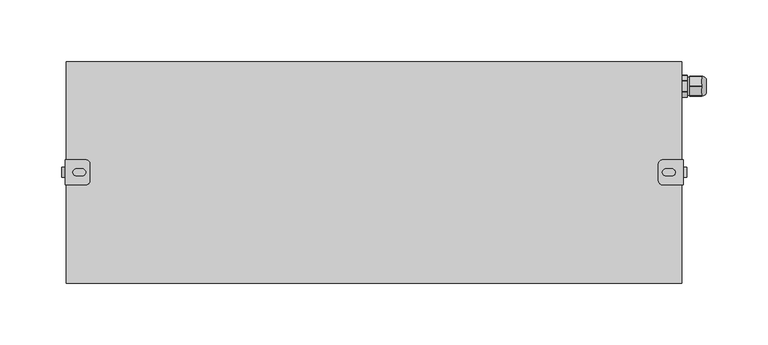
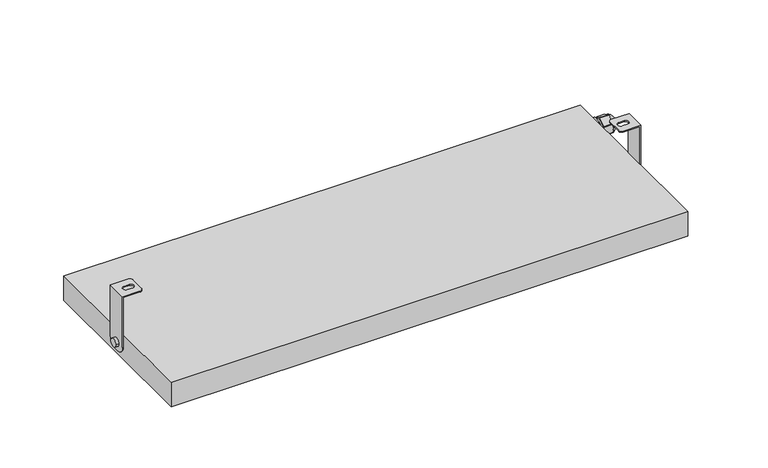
"""IFC4 building model written with IfcOpenShell, lengths in millimetres: light fixture geometry, GENILED_Светильник светодиодный_Titan Advanced : Titan Advanced 500x180x25 40Вт IP66 Опал."""

from ifc_helpers import new_model, si_unit, point, frame, frame_2d, origin, origin_with_axes, place, context, project, spatial, polyline, circle_curve, ellipse_curve, trimmed, segment, composite_curve, outline, extrude, source, transform, mapped, element, save
from ifc_brep_helpers import plane_surface, cylinder_surface, revolved_surface, advanced_brep


def light_fixture_fd2b8f3f(model_context):
    return source(origin(), model_context, "Body", "SolidModel", [
        advanced_brep(
        [(-234.0, 10.0, 64.5), (-251.0, 10.0, 64.5), (-251.0, -10.0, 64.5), (-234.0, -10.0, 64.5), (-231.0, -7.0, 64.5), (-231.0, 7.0, 64.5), (-237.0, 2.75, 64.5), (-237.0, -2.75, 64.5), (-242.0, -2.75, 64.5), (-242.0, 2.75, 64.5), (-234.0, -10.0, 63.5), (-250.0, -10.0, 63.5), (-250.0, 10.0, 63.5), (-234.0, 10.0, 63.5), (-231.0, 7.0, 63.5), (-231.0, -7.0, 63.5), (-237.0, 2.75, 63.5), (-242.0, 2.75, 63.5), (-242.0, -2.75, 63.5), (-237.0, -2.75, 63.5), (-251.0, -10.0, 12.5), (-250.0, -10.0, 12.5), (-251.0, 10.0, 12.5), (-251.0, 2.0, 4.5), (-251.0, -2.0, 4.5), (-251.0, 4.0, 12.5), (-251.0, -4.0, 12.5), (-250.0, 10.0, 12.5), (-250.0, -2.0, 4.5), (-250.0, 2.0, 4.5), (-254.0, -4.0, 12.5), (-254.0, 4.0, 12.5)],
        [
            (0, 1),
            (1, 2),
            (2, 3),
            (3, 4, circle_curve(frame((-234.0, -7.0, 64.5), z_axis=(0.0, 0.0, 1.0), x_axis=(-1.0, 0.0, 0.0)), 3.0)),
            (4, 5),
            (5, 0, circle_curve(frame((-234.0, 7.0, 64.5), z_axis=(0.0, 0.0, 1.0), x_axis=(-1.0, 0.0, 0.0)), 3.0)),
            (6, 7, circle_curve(frame((-237.0, 0.0, 64.5), z_axis=(0.0, 0.0, -1.0), x_axis=(-1.0, 0.0, 0.0)), 2.75)),
            (7, 8),
            (8, 9, circle_curve(frame((-242.0, 0.0, 64.5), z_axis=(0.0, 0.0, -1.0), x_axis=(-1.0, 0.0, 0.0)), 2.75)),
            (9, 6),
            (10, 11),
            (11, 12),
            (12, 13),
            (13, 14, circle_curve(frame((-234.0, 7.0, 63.5), z_axis=(0.0, 0.0, -1.0), x_axis=(-1.0, 0.0, 0.0)), 3.0)),
            (14, 15),
            (15, 10, circle_curve(frame((-234.0, -7.0, 63.5), z_axis=(0.0, 0.0, -1.0), x_axis=(-1.0, 0.0, 0.0)), 3.0)),
            (16, 17),
            (17, 18, circle_curve(frame((-242.0, 0.0, 63.5), z_axis=(0.0, 0.0, 1.0), x_axis=(-1.0, 0.0, 0.0)), 2.75)),
            (18, 19),
            (19, 16, circle_curve(frame((-237.0, 0.0, 63.5), z_axis=(0.0, 0.0, 1.0), x_axis=(-1.0, 0.0, 0.0)), 2.75)),
            (5, 14),
            (13, 0),
            (4, 15),
            (3, 10),
            (2, 20),
            (20, 21),
            (21, 11),
            (1, 22),
            (22, 23, circle_curve(frame((-251.0, 2.0, 12.5), z_axis=(-1.0, 0.0, 0.0), x_axis=(0.0, 1.0, 0.0)), 8.0)),
            (23, 24),
            (24, 20, circle_curve(frame((-251.0, -2.0, 12.5), z_axis=(-1.0, 0.0, 0.0), x_axis=(0.0, 1.0, 0.0)), 8.0)),
            (25, 26, circle_curve(frame((-251.0, 0.0, 12.5), z_axis=(1.0, 0.0, 0.0), x_axis=(0.0, 1.0, 0.0)), 4.0)),
            (26, 25, circle_curve(frame((-251.0, 0.0, 12.5), z_axis=(1.0, 0.0, 0.0), x_axis=(0.0, 1.0, 0.0)), 4.0)),
            (12, 27),
            (27, 22),
            (9, 17),
            (16, 6),
            (8, 18),
            (7, 19),
            (21, 28, circle_curve(frame((-250.0, -2.0, 12.5), z_axis=(1.0, 0.0, 0.0), x_axis=(0.0, 1.0, 0.0)), 8.0)),
            (28, 29),
            (29, 27, circle_curve(frame((-250.0, 2.0, 12.5), z_axis=(1.0, 0.0, 0.0), x_axis=(0.0, 1.0, 0.0)), 8.0)),
            (24, 28),
            (23, 29),
            (30, 31, circle_curve(frame((-254.0, 0.0, 12.5), z_axis=(-1.0, 0.0, 0.0), x_axis=(0.0, 1.0, 0.0)), 4.0)),
            (31, 30, circle_curve(frame((-254.0, 0.0, 12.5), z_axis=(-1.0, 0.0, 0.0), x_axis=(0.0, 1.0, 0.0)), 4.0)),
            (31, 25),
            (26, 30),
        ],
        [
            plane_surface(frame((-237.0, 7.0, 64.5), z_axis=(0.0, 0.0, 1.0), x_axis=(0.0, 1.0, 0.0))),
            plane_surface(frame((-237.0, 7.0, 63.5), z_axis=(0.0, 0.0, -1.0), x_axis=(0.0, -1.0, 0.0))),
            cylinder_surface(frame((-234.0, 7.0, 63.5), z_axis=(0.0, 0.0, 1.0), x_axis=(-1.0, 0.0, 0.0)), 3.0),
            plane_surface(frame((-231.0, 7.0, 64.5), z_axis=(1.0, 0.0, 0.0), x_axis=(0.0, 0.0, -1.0))),
            cylinder_surface(frame((-234.0, -7.0, 63.5), z_axis=(0.0, 0.0, 1.0), x_axis=(-1.0, 0.0, 0.0)), 3.0),
            plane_surface(frame((-234.0, -10.0, 64.5), z_axis=(0.0, -1.0, 0.0), x_axis=(0.0, 0.0, -1.0))),
            plane_surface(frame((-251.0, -10.0, 64.5), z_axis=(-1.0, 0.0, 0.0), x_axis=(0.0, 0.0, -1.0))),
            plane_surface(frame((-251.0, 10.0, 64.5), z_axis=(0.0, 1.0, 0.0), x_axis=(0.0, 0.0, -1.0))),
            plane_surface(frame((-237.0, 2.75, 64.5), z_axis=(0.0, -1.0, 0.0), x_axis=(0.0, 0.0, -1.0))),
            revolved_surface(polyline([(-244.75, 0.0, 63.5), (-244.75, 0.0, 64.5)]), (-242.0, 0.0, 12.5), (0.0, 0.0, -1.0)),
            plane_surface(frame((-242.0, -2.75, 64.5), z_axis=(0.0, 1.0, 0.0), x_axis=(0.0, 0.0, -1.0))),
            revolved_surface(polyline([(-239.75, 0.0, 63.5), (-239.75, 0.0, 64.5)]), (-237.0, 0.0, 12.5), (0.0, 0.0, -1.0)),
            plane_surface(frame((-250.0, -10.0, 64.5), z_axis=(1.0, 0.0, 0.0), x_axis=(0.0, 1.0, 0.0))),
            cylinder_surface(frame((-250.0, -2.0, 12.5), z_axis=(-1.0, 0.0, 0.0), x_axis=(0.0, 1.0, 0.0)), 8.0),
            plane_surface(frame((-251.0, -2.0, 4.5), z_axis=(0.0, 0.0, -1.0), x_axis=(1.0, 0.0, 0.0))),
            cylinder_surface(frame((-250.0, 2.0, 12.5), z_axis=(-1.0, 0.0, 0.0), x_axis=(0.0, 1.0, 0.0)), 8.0),
            plane_surface(frame((-254.0, 4.0, 12.5), z_axis=(-1.0, 0.0, 0.0), x_axis=(0.0, 0.0, 1.0))),
            cylinder_surface(frame((-251.0, 0.0, 12.5), z_axis=(-1.0, 0.0, 0.0), x_axis=(0.0, 1.0, 0.0)), 4.0),
        ],
        [
            (0, [[1, 2, 3, 4, 5, 6], [7, 8, 9, 10]]),
            (1, [[11, 12, 13, 14, 15, 16], [17, 18, 19, 20]]),
            (2, [[21, -14, 22, -6]]),
            (3, [[23, -15, -21, -5]]),
            (4, [[24, -16, -23, -4]]),
            (5, [[-3, 25, 26, 27, -11, -24]]),
            (6, [[28, 29, 30, 31, -25, -2], [32, 33]]),
            (7, [[-13, 34, 35, -28, -1, -22]]),
            (8, [[36, -17, 37, -10]]),
            (9, [[38, -18, -36, -9]]),
            (10, [[39, -19, -38, -8]]),
            (11, [[-37, -20, -39, -7]]),
            (12, [[-34, -12, -27, 40, 41, 42]]),
            (13, [[43, -40, -26, -31]]),
            (14, [[44, -41, -43, -30]]),
            (15, [[-35, -42, -44, -29]]),
            (16, [[45, 46]]),
            (17, [[47, -33, 48, -46]]),
            (17, [[-48, -32, -47, -45]]),
        ],
    ),
        advanced_brep(
        [(234.0, 10.0, 64.5), (231.0, 7.0, 64.5), (231.0, -7.0, 64.5), (234.0, -10.0, 64.5), (251.0, -10.0, 64.5), (251.0, 10.0, 64.5), (237.0, 2.75, 64.5), (242.0, 2.75, 64.5), (242.0, -2.75, 64.5), (237.0, -2.75, 64.5), (234.0, -10.0, 63.5), (231.0, -7.0, 63.5), (231.0, 7.0, 63.5), (234.0, 10.0, 63.5), (250.0, 10.0, 63.5), (250.0, -10.0, 63.5), (237.0, 2.75, 63.5), (237.0, -2.75, 63.5), (242.0, -2.75, 63.5), (242.0, 2.75, 63.5), (250.0, -10.0, 12.5), (251.0, -10.0, 12.5), (251.0, -2.0, 4.5), (251.0, 2.0, 4.5), (251.0, 10.0, 12.5), (251.0, 4.0, 12.5), (251.0, -4.0, 12.5), (250.0, 10.0, 12.5), (250.0, 2.0, 4.5), (250.0, -2.0, 4.5), (254.0, -4.0, 12.5), (254.0, 4.0, 12.5)],
        [
            (0, 1, circle_curve(frame((234.0, 7.0, 64.5), z_axis=(0.0, 0.0, 1.0), x_axis=(1.0, 0.0, 0.0)), 3.0)),
            (1, 2),
            (2, 3, circle_curve(frame((234.0, -7.0, 64.5), z_axis=(0.0, 0.0, 1.0), x_axis=(1.0, 0.0, 0.0)), 3.0)),
            (3, 4),
            (4, 5),
            (5, 0),
            (6, 7),
            (7, 8, circle_curve(frame((242.0, 0.0, 64.5), z_axis=(0.0, 0.0, -1.0), x_axis=(1.0, 0.0, 0.0)), 2.75)),
            (8, 9),
            (9, 6, circle_curve(frame((237.0, 0.0, 64.5), z_axis=(0.0, 0.0, -1.0), x_axis=(1.0, 0.0, 0.0)), 2.75)),
            (10, 11, circle_curve(frame((234.0, -7.0, 63.5), z_axis=(0.0, 0.0, -1.0), x_axis=(1.0, 0.0, 0.0)), 3.0)),
            (11, 12),
            (12, 13, circle_curve(frame((234.0, 7.0, 63.5), z_axis=(0.0, 0.0, -1.0), x_axis=(1.0, 0.0, 0.0)), 3.0)),
            (13, 14),
            (14, 15),
            (15, 10),
            (16, 17, circle_curve(frame((237.0, 0.0, 63.5), z_axis=(0.0, 0.0, 1.0), x_axis=(1.0, 0.0, 0.0)), 2.75)),
            (17, 18),
            (18, 19, circle_curve(frame((242.0, 0.0, 63.5), z_axis=(0.0, 0.0, 1.0), x_axis=(1.0, 0.0, 0.0)), 2.75)),
            (19, 16),
            (0, 13),
            (12, 1),
            (11, 2),
            (10, 3),
            (15, 20),
            (20, 21),
            (21, 4),
            (21, 22, circle_curve(frame((251.0, -2.0, 12.5), z_axis=(1.0, 0.0, 0.0), x_axis=(0.0, 1.0, 0.0)), 8.0)),
            (22, 23),
            (23, 24, circle_curve(frame((251.0, 2.0, 12.5), z_axis=(1.0, 0.0, 0.0), x_axis=(0.0, 1.0, 0.0)), 8.0)),
            (24, 5),
            (25, 26, circle_curve(frame((251.0, 0.0, 12.5), z_axis=(-1.0, 0.0, 0.0), x_axis=(0.0, 1.0, 0.0)), 4.0)),
            (26, 25, circle_curve(frame((251.0, 0.0, 12.5), z_axis=(-1.0, 0.0, 0.0), x_axis=(0.0, 1.0, 0.0)), 4.0)),
            (24, 27),
            (27, 14),
            (6, 16),
            (19, 7),
            (18, 8),
            (17, 9),
            (27, 28, circle_curve(frame((250.0, 2.0, 12.5), z_axis=(-1.0, 0.0, 0.0), x_axis=(0.0, 1.0, 0.0)), 8.0)),
            (28, 29),
            (29, 20, circle_curve(frame((250.0, -2.0, 12.5), z_axis=(-1.0, 0.0, 0.0), x_axis=(0.0, 1.0, 0.0)), 8.0)),
            (29, 22),
            (28, 23),
            (30, 31, circle_curve(frame((254.0, 0.0, 12.5), z_axis=(1.0, 0.0, 0.0), x_axis=(0.0, 1.0, 0.0)), 4.0)),
            (31, 30, circle_curve(frame((254.0, 0.0, 12.5), z_axis=(1.0, 0.0, 0.0), x_axis=(0.0, 1.0, 0.0)), 4.0)),
            (30, 26),
            (25, 31),
        ],
        [
            plane_surface(frame((237.0, 7.0, 64.5), z_axis=(0.0, 0.0, 1.0), x_axis=(0.0, 1.0, 0.0))),
            plane_surface(frame((237.0, 7.0, 63.5), z_axis=(0.0, 0.0, -1.0), x_axis=(0.0, -1.0, 0.0))),
            cylinder_surface(frame((234.0, 7.0, 63.5), z_axis=(0.0, 0.0, 1.0), x_axis=(1.0, 0.0, 0.0)), 3.0),
            plane_surface(frame((231.0, 7.0, 64.5), z_axis=(-1.0, 0.0, 0.0), x_axis=(0.0, 0.0, -1.0))),
            cylinder_surface(frame((234.0, -7.0, 63.5), z_axis=(0.0, 0.0, 1.0), x_axis=(1.0, 0.0, 0.0)), 3.0),
            plane_surface(frame((234.0, -10.0, 64.5), z_axis=(0.0, -1.0, 0.0), x_axis=(0.0, 0.0, -1.0))),
            plane_surface(frame((251.0, -10.0, 64.5), z_axis=(1.0, 0.0, 0.0), x_axis=(0.0, 0.0, -1.0))),
            plane_surface(frame((251.0, 10.0, 64.5), z_axis=(0.0, 1.0, 0.0), x_axis=(0.0, 0.0, -1.0))),
            plane_surface(frame((237.0, 2.75, 64.5), z_axis=(0.0, -1.0, 0.0), x_axis=(0.0, 0.0, -1.0))),
            revolved_surface(polyline([(244.75, 0.0, 63.5), (244.75, 0.0, 64.5)]), (242.0, 0.0, 12.5), (0.0, 0.0, -1.0)),
            plane_surface(frame((242.0, -2.75, 64.5), z_axis=(0.0, 1.0, 0.0), x_axis=(0.0, 0.0, -1.0))),
            revolved_surface(polyline([(239.75, 0.0, 63.5), (239.75, 0.0, 64.5)]), (237.0, 0.0, 12.5), (0.0, 0.0, -1.0)),
            plane_surface(frame((250.0, -10.0, 64.5), z_axis=(-1.0, 0.0, 0.0), x_axis=(0.0, 1.0, 0.0))),
            cylinder_surface(frame((250.0, -2.0, 12.5), z_axis=(1.0, 0.0, 0.0), x_axis=(0.0, 1.0, 0.0)), 8.0),
            plane_surface(frame((251.0, -2.0, 4.5), z_axis=(0.0, 0.0, -1.0), x_axis=(-1.0, 0.0, 0.0))),
            cylinder_surface(frame((250.0, 2.0, 12.5), z_axis=(1.0, 0.0, 0.0), x_axis=(0.0, 1.0, 0.0)), 8.0),
            plane_surface(frame((254.0, 4.0, 12.5), z_axis=(1.0, 0.0, 0.0), x_axis=(0.0, 0.0, 1.0))),
            cylinder_surface(frame((251.0, 0.0, 12.5), z_axis=(1.0, 0.0, 0.0), x_axis=(0.0, 1.0, 0.0)), 4.0),
        ],
        [
            (0, [[1, 2, 3, 4, 5, 6], [7, 8, 9, 10]]),
            (1, [[11, 12, 13, 14, 15, 16], [17, 18, 19, 20]]),
            (2, [[-1, 21, -13, 22]]),
            (3, [[-2, -22, -12, 23]]),
            (4, [[-3, -23, -11, 24]]),
            (5, [[-24, -16, 25, 26, 27, -4]]),
            (6, [[-5, -27, 28, 29, 30, 31], [32, 33]]),
            (7, [[-21, -6, -31, 34, 35, -14]]),
            (8, [[-7, 36, -20, 37]]),
            (9, [[-8, -37, -19, 38]]),
            (10, [[-9, -38, -18, 39]]),
            (11, [[-10, -39, -17, -36]]),
            (12, [[40, 41, 42, -25, -15, -35]]),
            (13, [[-28, -26, -42, 43]]),
            (14, [[-29, -43, -41, 44]]),
            (15, [[-30, -44, -40, -34]]),
            (16, [[45, 46]]),
            (17, [[-45, 47, -32, 48]]),
            (17, [[-46, -48, -33, -47]]),
        ],
    ),
        advanced_brep(
        [(270.0120269, 64.15, 12.5), (270.0120269, 75.85, 12.5), (270.0120269, 73.5, 12.5), (270.0120269, 66.5, 12.5), (266.0120269, 62.0, 12.5), (266.0120269, 66.0, 5.5717968), (266.0120269, 74.0, 5.5717968), (266.0120269, 78.0, 12.5), (266.0120269, 74.0, 19.4282032), (266.0120269, 66.0, 19.4282032), (266.0120269, 73.5, 12.5), (266.0120269, 66.5, 12.5), (266.0120269, 62.0, 8.3768944), (266.0120269, 62.4292858, 7.6333496), (266.0120269, 69.5707142, 3.510244), (266.0120269, 70.4292858, 3.510244), (266.0120269, 77.5707142, 7.6333496), (266.0120269, 78.0, 8.3768944), (266.0120269, 78.0, 16.6231056), (266.0120269, 77.5707142, 17.3666504), (266.0120269, 70.4292858, 21.489756), (266.0120269, 69.5707142, 21.489756), (266.0120269, 62.4292858, 17.3666504), (266.0120269, 62.0, 16.6231056), (256.6, 69.5707142, 3.510244), (256.6, 62.4292858, 7.6333496), (256.6, 62.0, 8.3768944), (256.6, 62.0, 16.6231056), (256.6, 62.4292858, 17.3666504), (256.6, 69.5707142, 21.489756), (256.6, 70.4292858, 21.489756), (256.6, 77.5707142, 17.3666504), (256.6, 78.0, 16.6231056), (256.6, 78.0, 8.3768944), (256.6, 77.5707142, 7.6333496), (256.6, 70.4292858, 3.510244), (256.6, 77.25, 12.5), (256.6, 62.75, 12.5), (254.6, 77.25, 12.5), (254.6, 62.75, 12.5), (254.6, 78.989756, 12.9292858), (254.6, 74.8666504, 20.0707142), (254.6, 74.1231056, 20.5), (254.6, 65.8768944, 20.5), (254.6, 65.1333496, 20.0707142), (254.6, 61.010244, 12.9292858), (254.6, 61.0, 12.5), (254.6, 61.010244, 12.0707142), (254.6, 65.1333496, 4.9292858), (254.6, 65.8768944, 4.5), (254.6, 74.1231056, 4.5), (254.6, 74.8666504, 4.9292858), (254.6, 78.989756, 12.0707142), (254.6, 79.0, 12.5), (250.0, 78.989756, 12.0707142), (250.0, 74.8666504, 4.9292858), (250.0, 74.1231056, 4.5), (250.0, 65.8768944, 4.5), (250.0, 65.1333496, 4.9292858), (250.0, 61.010244, 12.0707142), (250.0, 61.0, 12.5), (250.0, 61.010244, 12.9292858), (250.0, 65.1333496, 20.0707142), (250.0, 65.8768944, 20.5), (250.0, 74.1231056, 20.5), (250.0, 74.8666504, 20.0707142), (250.0, 78.989756, 12.9292858), (250.0, 79.0, 12.5)],
        [
            (0, 1, circle_curve(frame((270.0120269, 70.0, 12.5), z_axis=(1.0, 0.0, 0.0), x_axis=(0.0, 1.0, 0.0)), 5.85)),
            (1, 2),
            (2, 3, circle_curve(frame((270.0120269, 70.0, 12.5), z_axis=(-1.0, 0.0, 0.0), x_axis=(0.0, 1.0, 0.0)), 3.5)),
            (3, 0),
            (1, 0, circle_curve(frame((270.0120269, 70.0, 12.5), z_axis=(1.0, 0.0, 0.0), x_axis=(0.0, 1.0, 0.0)), 5.85)),
            (3, 2, circle_curve(frame((270.0120269, 70.0, 12.5), z_axis=(-1.0, 0.0, 0.0), x_axis=(0.0, 1.0, 0.0)), 3.5)),
            (0, 4, circle_curve(frame((265.6269324, 67.5123851, 12.5), z_axis=(0.0, 0.0, -1.0), x_axis=(0.0, 1.0, 0.0)), 5.5258201)),
            (4, 5, circle_curve(frame((266.0120269, 70.0, 12.5), z_axis=(1.0, 0.0, 0.0), x_axis=(0.0, 1.0, 0.0)), 8.0)),
            (5, 6, circle_curve(frame((266.0120269, 70.0, 12.5), z_axis=(1.0, 0.0, 0.0), x_axis=(0.0, 1.0, 0.0)), 8.0)),
            (6, 7, circle_curve(frame((266.0120269, 70.0, 12.5), z_axis=(1.0, 0.0, 0.0), x_axis=(0.0, 1.0, 0.0)), 8.0)),
            (7, 1, circle_curve(frame((265.6269324, 72.4876149, 12.5), z_axis=(0.0, 0.0, -1.0), x_axis=(0.0, -1.0, 0.0)), 5.5258201)),
            (7, 8, circle_curve(frame((266.0120269, 70.0, 12.5), z_axis=(1.0, 0.0, 0.0), x_axis=(0.0, 1.0, 0.0)), 8.0)),
            (8, 9, circle_curve(frame((266.0120269, 70.0, 12.5), z_axis=(1.0, 0.0, 0.0), x_axis=(0.0, 1.0, 0.0)), 8.0)),
            (9, 4, circle_curve(frame((266.0120269, 70.0, 12.5), z_axis=(1.0, 0.0, 0.0), x_axis=(0.0, 1.0, 0.0)), 8.0)),
            (2, 10),
            (10, 11, circle_curve(frame((266.0120269, 70.0, 12.5), z_axis=(-1.0, 0.0, 0.0), x_axis=(0.0, 1.0, 0.0)), 3.5)),
            (11, 3),
            (11, 10, circle_curve(frame((266.0120269, 70.0, 12.5), z_axis=(-1.0, 0.0, 0.0), x_axis=(0.0, 1.0, 0.0)), 3.5)),
            (4, 12),
            (12, 13, circle_curve(frame((266.0120269, 70.0, 12.5), z_axis=(1.0, 0.0, 0.0), x_axis=(0.0, -1.0, 0.0)), 9.0)),
            (13, 5),
            (5, 14),
            (14, 15, circle_curve(frame((266.0120269, 70.0, 12.5), z_axis=(1.0, 0.0, 0.0), x_axis=(0.0, -1.0, 0.0)), 9.0)),
            (15, 6),
            (6, 16),
            (16, 17, circle_curve(frame((266.0120269, 70.0, 12.5), z_axis=(1.0, 0.0, 0.0), x_axis=(0.0, -1.0, 0.0)), 9.0)),
            (17, 7),
            (7, 18),
            (18, 19, circle_curve(frame((266.0120269, 70.0, 12.5), z_axis=(1.0, 0.0, 0.0), x_axis=(0.0, -1.0, 0.0)), 9.0)),
            (19, 8),
            (8, 20),
            (20, 21, circle_curve(frame((266.0120269, 70.0, 12.5), z_axis=(1.0, 0.0, 0.0), x_axis=(0.0, -1.0, 0.0)), 9.0)),
            (21, 9),
            (9, 22),
            (22, 23, circle_curve(frame((266.0120269, 70.0, 12.5), z_axis=(1.0, 0.0, 0.0), x_axis=(0.0, -1.0, 0.0)), 9.0)),
            (23, 4),
            (24, 25),
            (25, 26, circle_curve(frame((256.6, 70.0, 12.5), z_axis=(-1.0, 0.0, 0.0), x_axis=(0.0, -1.0, 0.0)), 9.0)),
            (26, 27),
            (27, 28, circle_curve(frame((256.6, 70.0, 12.5), z_axis=(-1.0, 0.0, 0.0), x_axis=(0.0, -1.0, 0.0)), 9.0)),
            (28, 29),
            (29, 30, circle_curve(frame((256.6, 70.0, 12.5), z_axis=(-1.0, 0.0, 0.0), x_axis=(0.0, -1.0, 0.0)), 9.0)),
            (30, 31),
            (31, 32, circle_curve(frame((256.6, 70.0, 12.5), z_axis=(-1.0, 0.0, 0.0), x_axis=(0.0, -1.0, 0.0)), 9.0)),
            (32, 33),
            (33, 34, circle_curve(frame((256.6, 70.0, 12.5), z_axis=(-1.0, 0.0, 0.0), x_axis=(0.0, -1.0, 0.0)), 9.0)),
            (34, 35),
            (35, 24, circle_curve(frame((256.6, 70.0, 12.5), z_axis=(-1.0, 0.0, 0.0), x_axis=(0.0, -1.0, 0.0)), 9.0)),
            (36, 37, circle_curve(frame((256.6, 70.0, 12.5), z_axis=(1.0, 0.0, 0.0), x_axis=(0.0, -1.0, 0.0)), 7.25)),
            (37, 36, circle_curve(frame((256.6, 70.0, 12.5), z_axis=(1.0, 0.0, 0.0), x_axis=(0.0, -1.0, 0.0)), 7.25)),
            (15, 35),
            (34, 16),
            (17, 33),
            (32, 18),
            (19, 31),
            (30, 20),
            (21, 29),
            (28, 22),
            (23, 27),
            (26, 12),
            (13, 25),
            (24, 14),
            (36, 38),
            (38, 39, circle_curve(frame((254.6, 70.0, 12.5), z_axis=(1.0, 0.0, 0.0), x_axis=(0.0, -1.0, 0.0)), 7.25)),
            (39, 37),
            (39, 38, circle_curve(frame((254.6, 70.0, 12.5), z_axis=(1.0, 0.0, 0.0), x_axis=(0.0, -1.0, 0.0)), 7.25)),
            (40, 41),
            (41, 42, circle_curve(frame((254.6, 70.0, 12.5), z_axis=(1.0, 0.0, 0.0), x_axis=(0.0, -1.0, 0.0)), 9.0)),
            (42, 43),
            (43, 44, circle_curve(frame((254.6, 70.0, 12.5), z_axis=(1.0, 0.0, 0.0), x_axis=(0.0, -1.0, 0.0)), 9.0)),
            (44, 45),
            (45, 46, circle_curve(frame((254.6, 70.0, 12.5), z_axis=(1.0, 0.0, 0.0), x_axis=(0.0, -1.0, 0.0)), 9.0)),
            (46, 47, circle_curve(frame((254.6, 70.0, 12.5), z_axis=(1.0, 0.0, 0.0), x_axis=(0.0, -1.0, 0.0)), 9.0)),
            (47, 48),
            (48, 49, circle_curve(frame((254.6, 70.0, 12.5), z_axis=(1.0, 0.0, 0.0), x_axis=(0.0, -1.0, 0.0)), 9.0)),
            (49, 50),
            (50, 51, circle_curve(frame((254.6, 70.0, 12.5), z_axis=(1.0, 0.0, 0.0), x_axis=(0.0, -1.0, 0.0)), 9.0)),
            (51, 52),
            (52, 53, circle_curve(frame((254.6, 70.0, 12.5), z_axis=(1.0, 0.0, 0.0), x_axis=(0.0, -1.0, 0.0)), 9.0)),
            (53, 40, circle_curve(frame((254.6, 70.0, 12.5), z_axis=(1.0, 0.0, 0.0), x_axis=(0.0, -1.0, 0.0)), 9.0)),
            (54, 55),
            (55, 56, circle_curve(frame((250.0, 70.0, 12.5), z_axis=(-1.0, 0.0, 0.0), x_axis=(0.0, -1.0, 0.0)), 9.0)),
            (56, 57),
            (57, 58, circle_curve(frame((250.0, 70.0, 12.5), z_axis=(-1.0, 0.0, 0.0), x_axis=(0.0, -1.0, 0.0)), 9.0)),
            (58, 59),
            (59, 60, circle_curve(frame((250.0, 70.0, 12.5), z_axis=(-1.0, 0.0, 0.0), x_axis=(0.0, -1.0, 0.0)), 9.0)),
            (60, 61, circle_curve(frame((250.0, 70.0, 12.5), z_axis=(-1.0, 0.0, 0.0), x_axis=(0.0, -1.0, 0.0)), 9.0)),
            (61, 62),
            (62, 63, circle_curve(frame((250.0, 70.0, 12.5), z_axis=(-1.0, 0.0, 0.0), x_axis=(0.0, -1.0, 0.0)), 9.0)),
            (63, 64),
            (64, 65, circle_curve(frame((250.0, 70.0, 12.5), z_axis=(-1.0, 0.0, 0.0), x_axis=(0.0, -1.0, 0.0)), 9.0)),
            (65, 66),
            (66, 67, circle_curve(frame((250.0, 70.0, 12.5), z_axis=(-1.0, 0.0, 0.0), x_axis=(0.0, -1.0, 0.0)), 9.0)),
            (67, 54, circle_curve(frame((250.0, 70.0, 12.5), z_axis=(-1.0, 0.0, 0.0), x_axis=(0.0, -1.0, 0.0)), 9.0)),
            (40, 66),
            (65, 41),
            (42, 64),
            (63, 43),
            (44, 62),
            (61, 45),
            (47, 59),
            (58, 48),
            (49, 57),
            (56, 50),
            (51, 55),
            (54, 52),
            (67, 53),
            (46, 60),
        ],
        [
            plane_surface(frame((270.0120269, 70.0, 12.5), z_axis=(1.0, 0.0, 0.0), x_axis=(0.0, 1.0, 0.0))),
            revolved_surface(trimmed(ellipse_curve(frame((265.6269324, 72.4876149, 12.5), z_axis=(0.0, 0.0, 1.0), x_axis=(0.0, -1.0, 0.0)), 5.5258201, 5.5258201), [point((270.0120269, 75.85, 12.5))], [point((266.0120269, 78.0, 12.5))], True, "CARTESIAN"), (266.0120269, 70.0, 12.5), (-1.0, 0.0, 0.0)),
            revolved_surface(polyline([(266.0120269, 73.5, 12.5), (270.0120269, 73.5, 12.5)]), (266.0120269, 70.0, 12.5), (-1.0, 0.0, 0.0)),
            plane_surface(frame((266.0120269, 70.0, 3.2623957), z_axis=(1.0000000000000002, 0.0, 0.0), x_axis=(0.0, 0.8660254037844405, 0.49999999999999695))),
            plane_surface(frame((256.6, 70.0, 3.2623957), z_axis=(-1.0000000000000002, 0.0, 0.0), x_axis=(0.0, -0.8660254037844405, -0.49999999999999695))),
            plane_surface(frame((266.0120269, 70.0, 3.2623957), z_axis=(0.0, 0.49999999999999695, -0.8660254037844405), x_axis=(-1.0, 0.0, 0.0))),
            plane_surface(frame((266.0120269, 78.0, 7.8811978), z_axis=(0.0, 1.0, 0.0), x_axis=(-1.0, 0.0, 0.0))),
            plane_surface(frame((266.0120269, 78.0, 17.1188022), z_axis=(0.0, 0.5000000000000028, 0.8660254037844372), x_axis=(-1.0, 0.0, 0.0))),
            plane_surface(frame((266.0120269, 70.0, 21.7376043), z_axis=(0.0, -0.49999999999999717, 0.8660254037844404), x_axis=(-1.0, 0.0, 0.0))),
            plane_surface(frame((266.0120269, 62.0, 17.1188022), z_axis=(0.0, -1.0, 0.0), x_axis=(-1.0, 0.0, 0.0))),
            plane_surface(frame((266.0120269, 62.0, 7.8811978), z_axis=(0.0, -0.5000000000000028, -0.8660254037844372), x_axis=(-1.0, 0.0, 0.0))),
            cylinder_surface(frame((254.6, 70.0, 12.5), z_axis=(1.0, 0.0, 0.0), x_axis=(0.0, -1.0, 0.0)), 7.25),
            plane_surface(frame((254.6, 79.2376043, 12.5), z_axis=(1.0, 0.0, 0.0), x_axis=(0.0, -0.5000000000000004, 0.8660254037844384))),
            plane_surface(frame((250.0, 79.2376043, 12.5), z_axis=(-1.0, 0.0, 0.0), x_axis=(0.0, 0.5000000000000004, -0.8660254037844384))),
            plane_surface(frame((254.6, 79.2376043, 12.5), z_axis=(0.0, 0.8660254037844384, 0.5000000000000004), x_axis=(-1.0, 0.0, 0.0))),
            plane_surface(frame((254.6, 74.6188022, 20.5), z_axis=(0.0, 0.0, 1.0), x_axis=(-1.0, 0.0, 0.0))),
            plane_surface(frame((254.6, 65.3811978, 20.5), z_axis=(0.0, -0.866025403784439, 0.49999999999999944), x_axis=(-1.0, 0.0, 0.0))),
            plane_surface(frame((254.6, 60.7623957, 12.5), z_axis=(0.0, -0.8660254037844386, -0.5000000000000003), x_axis=(-1.0, 0.0, 0.0))),
            plane_surface(frame((254.6, 65.3811978, 4.5), z_axis=(0.0, 0.0, -1.0), x_axis=(-1.0, 0.0, 0.0))),
            plane_surface(frame((254.6, 74.6188022, 4.5), z_axis=(0.0, 0.8660254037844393, -0.49999999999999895), x_axis=(-1.0, 0.0, 0.0))),
            cylinder_surface(frame((250.0, 70.0, 12.5), z_axis=(-1.0, 0.0, 0.0), x_axis=(0.0, -1.0, 0.0)), 9.0),
        ],
        [
            (0, [[1, 2, 3, 4]]),
            (0, [[-2, 5, -4, 6]]),
            (1, [[-1, 7, 8, 9, 10, 11]]),
            (1, [[-5, -11, 12, 13, 14, -7]]),
            (2, [[-3, 15, 16, 17]]),
            (2, [[-6, -17, 18, -15]]),
            (3, [[-8, 19, 20, 21]]),
            (3, [[-9, 22, 23, 24]]),
            (3, [[-10, 25, 26, 27]]),
            (3, [[-12, 28, 29, 30]]),
            (3, [[-13, 31, 32, 33]]),
            (3, [[-14, 34, 35, 36]]),
            (3, [[-16, -18]]),
            (4, [[37, 38, 39, 40, 41, 42, 43, 44, 45, 46, 47, 48], [49, 50]]),
            (5, [[-25, -24, 51, -47, 52]]),
            (6, [[-27, 53, -45, 54, -28]]),
            (7, [[-30, 55, -43, 56, -31]]),
            (8, [[-34, -33, 57, -41, 58]]),
            (9, [[-36, 59, -39, 60, -19]]),
            (10, [[-21, 61, -37, 62, -22]]),
            (11, [[63, 64, 65, -49]]),
            (11, [[-63, -50, -65, 66]]),
            (12, [[67, 68, 69, 70, 71, 72, 73, 74, 75, 76, 77, 78, 79, 80], [-64, -66]]),
            (13, [[81, 82, 83, 84, 85, 86, 87, 88, 89, 90, 91, 92, 93, 94]]),
            (14, [[-67, 95, -92, 96]]),
            (15, [[-69, 97, -90, 98]]),
            (16, [[-71, 99, -88, 100]]),
            (17, [[-74, 101, -85, 102]]),
            (18, [[-76, 103, -83, 104]]),
            (19, [[-78, 105, -81, 106]]),
            (20, [[-20, -60, -38, -61]]),
            (20, [[-23, -62, -48, -51]]),
            (20, [[-26, -52, -46, -53]]),
            (20, [[-75, -102, -84, -103]]),
            (20, [[-77, -104, -82, -105]]),
            (20, [[107, -79, -106, -94]]),
            (20, [[108, -86, -101, -73]]),
            (20, [[-29, -54, -44, -55]]),
            (20, [[-32, -56, -42, -57]]),
            (20, [[-35, -58, -40, -59]]),
            (20, [[-68, -96, -91, -97]]),
            (20, [[-70, -98, -89, -99]]),
            (20, [[-107, -93, -95, -80]]),
            (20, [[-108, -72, -100, -87]]),
        ],
    ),
        advanced_brep(
        [(250.0, 90.0, 25.0), (-250.0, 90.0, 25.0), (-250.0, -90.0, 25.0), (250.0, -90.0, 25.0), (250.0, 90.0, 0.0), (250.0, -90.0, 0.0), (-250.0, -90.0, 0.0), (-250.0, 90.0, 0.0), (220.0, 75.0, 0.0), (-220.0, 75.0, 0.0), (-235.0, 60.0, 0.0), (-235.0, -60.0, 0.0), (-220.0, -75.0, 0.0), (220.0, -75.0, 0.0), (235.0, -60.0, 0.0), (235.0, 60.0, 0.0), (235.0, 60.0, 5.0), (220.0, 75.0, 5.0), (235.0, -60.0, 5.0), (220.0, -75.0, 5.0), (-220.0, -75.0, 5.0), (-235.0, -60.0, 5.0), (-235.0, 60.0, 5.0), (-220.0, 75.0, 5.0)],
        [
            (0, 1),
            (1, 2),
            (2, 3),
            (3, 0),
            (4, 5),
            (5, 6),
            (6, 7),
            (7, 4),
            (8, 9),
            (9, 10, circle_curve(frame((-220.0, 60.0, 0.0), z_axis=(0.0, 0.0, 1.0), x_axis=(1.0, 0.0, 0.0)), 15.0)),
            (10, 11),
            (11, 12, circle_curve(frame((-220.0, -60.0, 0.0), z_axis=(0.0, 0.0, 1.0), x_axis=(1.0, 0.0, 0.0)), 15.0)),
            (12, 13),
            (13, 14, circle_curve(frame((220.0, -60.0, 0.0), z_axis=(0.0, 0.0, 1.0), x_axis=(1.0, 0.0, 0.0)), 15.0)),
            (14, 15),
            (15, 8, circle_curve(frame((220.0, 60.0, 0.0), z_axis=(0.0, 0.0, 1.0), x_axis=(1.0, 0.0, 0.0)), 15.0)),
            (0, 4),
            (7, 1),
            (6, 2),
            (5, 3),
            (15, 16),
            (16, 17, circle_curve(frame((220.0, 60.0, 5.0), z_axis=(0.0, 0.0, 1.0), x_axis=(1.0, 0.0, 0.0)), 15.0)),
            (17, 8),
            (14, 18),
            (18, 16),
            (13, 19),
            (19, 18, circle_curve(frame((220.0, -60.0, 5.0), z_axis=(0.0, 0.0, 1.0), x_axis=(1.0, 0.0, 0.0)), 15.0)),
            (12, 20),
            (20, 19),
            (11, 21),
            (21, 20, circle_curve(frame((-220.0, -60.0, 5.0), z_axis=(0.0, 0.0, 1.0), x_axis=(1.0, 0.0, 0.0)), 15.0)),
            (10, 22),
            (22, 21),
            (9, 23),
            (23, 22, circle_curve(frame((-220.0, 60.0, 5.0), z_axis=(0.0, 0.0, 1.0), x_axis=(1.0, 0.0, 0.0)), 15.0)),
            (17, 23),
        ],
        [
            plane_surface(frame((-250.0, 90.0, 25.0), z_axis=(0.0, 0.0, 1.0), x_axis=(-1.0, 0.0, 0.0))),
            plane_surface(frame((-250.0, 90.0, 0.0), z_axis=(0.0, 0.0, -1.0), x_axis=(1.0, 0.0, 0.0))),
            plane_surface(frame((250.0, 90.0, 25.0), z_axis=(0.0, 1.0, 0.0), x_axis=(0.0, 0.0, -1.0))),
            plane_surface(frame((-250.0, 90.0, 25.0), z_axis=(-1.0, 0.0, 0.0), x_axis=(0.0, 0.0, -1.0))),
            plane_surface(frame((-250.0, -90.0, 25.0), z_axis=(0.0, -1.0, 0.0), x_axis=(0.0, 0.0, -1.0))),
            plane_surface(frame((250.0, -90.0, 25.0), z_axis=(1.0, 0.0, 0.0), x_axis=(0.0, 0.0, -1.0))),
            revolved_surface(polyline([(235.0, 60.0, 0.0), (235.0, 60.0, 5.0)]), (220.0, 60.0, 0.0), (0.0, 0.0, -1.0)),
            plane_surface(frame((235.0, 60.0, 25.0), z_axis=(-1.0, 0.0, 0.0), x_axis=(0.0, 0.0, -1.0))),
            revolved_surface(polyline([(235.0, -60.0, 0.0), (235.0, -60.0, 5.0)]), (220.0, -60.0, 0.0), (0.0, 0.0, -1.0)),
            plane_surface(frame((220.0, -75.0, 25.0), z_axis=(0.0, 1.0, 0.0), x_axis=(0.0, 0.0, -1.0))),
            revolved_surface(polyline([(-205.0, -60.0, 0.0), (-205.0, -60.0, 5.0)]), (-220.0, -60.0, 0.0), (0.0, 0.0, -1.0)),
            plane_surface(frame((-235.0, -60.0, 25.0), z_axis=(1.0, 0.0, 0.0), x_axis=(0.0, 0.0, -1.0))),
            revolved_surface(polyline([(-205.0, 60.0, 0.0), (-205.0, 60.0, 5.0)]), (-220.0, 60.0, 0.0), (0.0, 0.0, -1.0)),
            plane_surface(frame((-220.0, 75.0, 25.0), z_axis=(0.0, -1.0, 0.0), x_axis=(0.0, 0.0, -1.0))),
            plane_surface(frame((-220.0, 75.0, 5.0), z_axis=(0.0, 0.0, -1.0), x_axis=(1.0, 0.0, 0.0))),
        ],
        [
            (0, [[1, 2, 3, 4]]),
            (1, [[5, 6, 7, 8], [9, 10, 11, 12, 13, 14, 15, 16]]),
            (2, [[-1, 17, -8, 18]]),
            (3, [[-2, -18, -7, 19]]),
            (4, [[-3, -19, -6, 20]]),
            (5, [[-4, -20, -5, -17]]),
            (6, [[-16, 21, 22, 23]]),
            (7, [[-15, 24, 25, -21]]),
            (8, [[-14, 26, 27, -24]]),
            (9, [[-13, 28, 29, -26]]),
            (10, [[-12, 30, 31, -28]]),
            (11, [[-11, 32, 33, -30]]),
            (12, [[-10, 34, 35, -32]]),
            (13, [[-9, -23, 36, -34]]),
            (14, [[-22, -25, -27, -29, -31, -33, -35, -36]]),
        ],
    ),
        extrude(outline(composite_curve([segment(trimmed(circle_curve(frame_2d((220.0, 60.0)), 15.0), [point((220.0, 75.0))], [point((235.0, 60.0))], False, "CARTESIAN"), True, "CONTINUOUS"), segment(polyline([(235.0, 60.0), (235.0, -60.0)]), True, "CONTINUOUS"), segment(trimmed(circle_curve(frame_2d((220.0, -60.0)), 15.0), [point((235.0, -60.0))], [point((220.0, -75.0))], False, "CARTESIAN"), True, "CONTINUOUS"), segment(polyline([(220.0, -75.0), (-220.0, -75.0)]), True, "CONTINUOUS"), segment(trimmed(circle_curve(frame_2d((-220.0, -60.0)), 15.0), [point((-220.0, -75.0))], [point((-235.0, -60.0))], False, "CARTESIAN"), True, "CONTINUOUS"), segment(polyline([(-235.0, -60.0), (-235.0, 60.0)]), True, "CONTINUOUS"), segment(trimmed(circle_curve(frame_2d((-220.0, 60.0)), 15.0), [point((-235.0, 60.0))], [point((-220.0, 75.0))], False, "CARTESIAN"), True, "CONTINUOUS"), segment(polyline([(-220.0, 75.0), (220.0, 75.0)]), True, "CONTINUOUS")], self_intersect=False)), origin_with_axes(), (0.0, 0.0, 1.0), 5.0),
    ])


if __name__ == "__main__":
    model = new_model("IFC4")
    model_context = context("Model", 3, world=origin())
    ifc_project = project(units=[si_unit("LENGTHUNIT", "METRE", prefix="MILLI")], contexts=[model_context])
    site = spatial("IfcSite", under=ifc_project)
    building = spatial("IfcBuilding", under=site)
    placement = place(None, origin())
    light_fixture_shape = light_fixture_fd2b8f3f(model_context)
    element("IfcLightFixture", 1, ObjectType="GENILED_Светильник светодиодный_Titan Advanced : Titan Advanced 500x180x25 40Вт IP66 Опал", at=placement, inside=building, context=model_context, shape_type="MappedRepresentation", body=[
        mapped(light_fixture_shape, transform((0.0, 0.0, 0.0), x_axis=(1.0, 0.0, 0.0), y_axis=(0.0, 1.0, 0.0), z_axis=(0.0, 0.0, 1.0))),
    ])
    save(model, "model.ifc")
